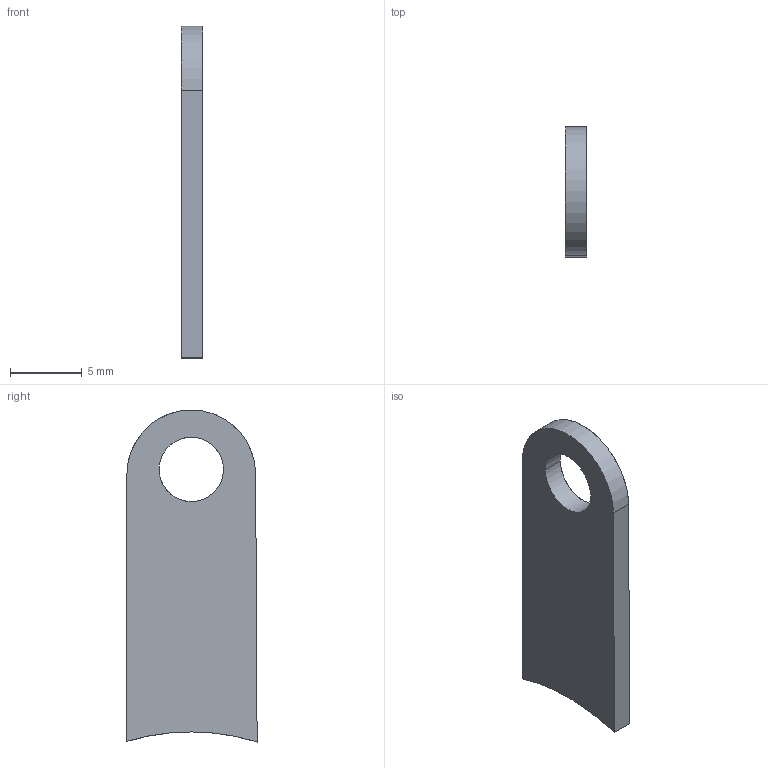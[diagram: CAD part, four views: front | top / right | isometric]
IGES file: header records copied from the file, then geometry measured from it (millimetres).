
Start section: START RECORD GO HERE.
Global section: file name: 20M_ST_0701_02 (chape gauche cache cremaillere).igs; native system: IBM CATIA IGES - CATIA Version 5 Release 19 ; preprocessor: CATIA Version 5 Release 19 ; author: Martin Kawczynski; organization: DESKTOP-UDLM1FC; date: 20200123.122313; units: millimetre
Bounding box: 1.5 x 9.1 x 23.2 mm (x, y, z)
Surface area: 474 mm2 (no closed solid volume)
Topology: 0 solids, 0 shells, 9 faces, 42 edges, 43 vertices
Faces by surface type: plane 4, revolution 3, extrusion 2
